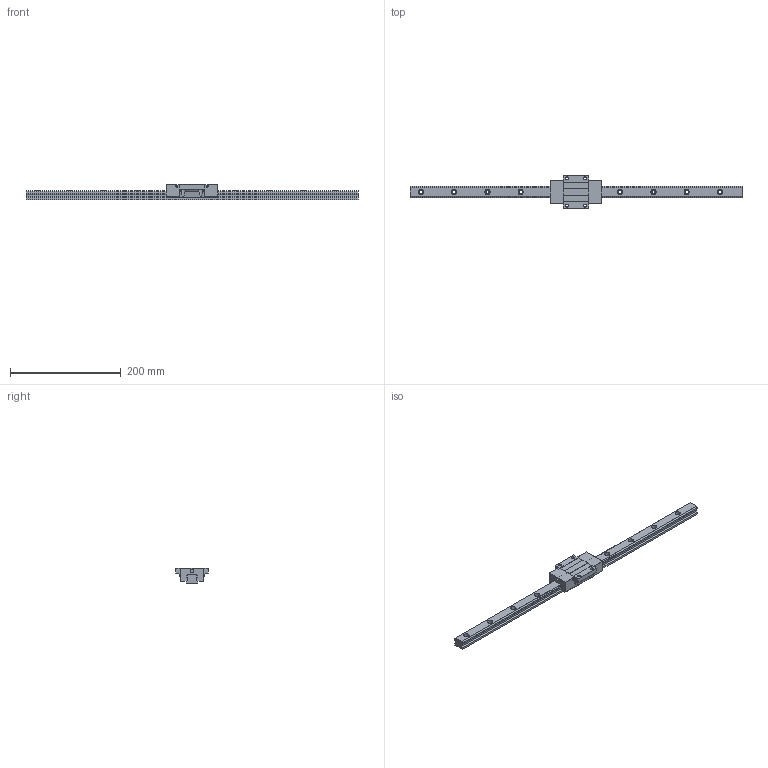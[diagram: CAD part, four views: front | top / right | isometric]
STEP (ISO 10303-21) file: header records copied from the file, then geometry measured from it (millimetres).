
FILE_DESCRIPTION (( 'STEP AP203' ), '1' );
FILE_NAME ('TRS20FN-DZ.STEP', '2024-07-11T05:56:30', ( '' ), ( '' ), 'SwSTEP 2.0', 'SolidWorks 2022', '' );
FILE_SCHEMA (( 'CONFIG_CONTROL_DESIGN' ));
Length unit declared in the file: millimetre
Products named in the file (1): TRS20FN-DZ
Bounding box: 600 x 59 x 28 mm (x, y, z)
Volume: 242370 mm3; surface area: 68565.5 mm2
Topology: 2 solids, 2 shells, 234 faces, 618 edges, 400 vertices
Faces by surface type: cylinder 124, plane 106, sphere 4
Entity records: 7573 total; most frequent: CARTESIAN_POINT 1509, DIRECTION 1284, ORIENTED_EDGE 1228, EDGE_CURVE 614, AXIS2_PLACEMENT_3D 459, VERTEX_POINT 400, LINE 366, VECTOR 366
